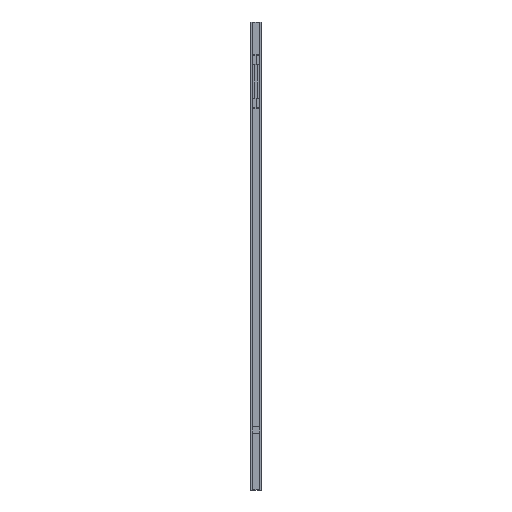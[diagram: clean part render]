
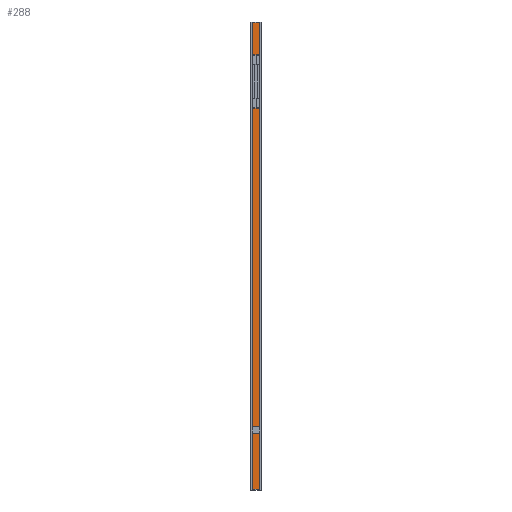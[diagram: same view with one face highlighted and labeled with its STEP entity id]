
A CAD part, top view. The second image highlights one B-rep face of the part: STEP entity #288.
In plain terms, the highlighted planar face has unit normal (0, 0, 1).
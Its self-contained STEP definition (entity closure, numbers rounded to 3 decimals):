
#15=FACE_BOUND('',#893,.T.);
#16=FACE_BOUND('',#894,.T.);
#288=ADVANCED_FACE('',(#590,#15,#16),#4475,.T.);
#590=FACE_OUTER_BOUND('',#892,.T.);
#892=EDGE_LOOP('',(#1731,#1732,#1733,#1734));
#893=EDGE_LOOP('',(#1735,#1736));
#894=EDGE_LOOP('',(#1737,#1738));
#1731=ORIENTED_EDGE('',*,*,#2775,.F.);
#1732=ORIENTED_EDGE('',*,*,#2724,.F.);
#1733=ORIENTED_EDGE('',*,*,#2776,.F.);
#1734=ORIENTED_EDGE('',*,*,#2719,.F.);
#1735=ORIENTED_EDGE('',*,*,#2779,.T.);
#1736=ORIENTED_EDGE('',*,*,#2785,.T.);
#1737=ORIENTED_EDGE('',*,*,#2783,.T.);
#1738=ORIENTED_EDGE('',*,*,#2787,.T.);
#2719=EDGE_CURVE('',#3989,#3990,#3563,.T.);
#2724=EDGE_CURVE('',#3994,#3991,#3568,.T.);
#2775=EDGE_CURVE('',#3991,#3989,#3619,.T.);
#2776=EDGE_CURVE('',#3990,#3994,#3620,.T.);
#2779=EDGE_CURVE('',#4028,#4027,#3623,.T.);
#2783=EDGE_CURVE('',#4030,#4029,#3627,.T.);
#2785=EDGE_CURVE('',#4027,#4028,#3629,.T.);
#2787=EDGE_CURVE('',#4029,#4030,#3631,.T.);
#3563=(
BOUNDED_CURVE()
B_SPLINE_CURVE(1,(#6219,#6220),.UNSPECIFIED.,.F.,.F.)
B_SPLINE_CURVE_WITH_KNOTS((2,2),(0.,1182.),.UNSPECIFIED.)
CURVE()
GEOMETRIC_REPRESENTATION_ITEM()
RATIONAL_B_SPLINE_CURVE((1.,1.))
REPRESENTATION_ITEM('')
);
#3568=(
BOUNDED_CURVE()
B_SPLINE_CURVE(1,(#6232,#6233),.UNSPECIFIED.,.F.,.F.)
B_SPLINE_CURVE_WITH_KNOTS((2,2),(0.,1182.),.UNSPECIFIED.)
CURVE()
GEOMETRIC_REPRESENTATION_ITEM()
RATIONAL_B_SPLINE_CURVE((1.,1.))
REPRESENTATION_ITEM('')
);
#3619=(
BOUNDED_CURVE()
B_SPLINE_CURVE(2,(#6368,#6369,#6370,#6371,#6372,#6373,#6374),
 .UNSPECIFIED.,.F.,.F.)
B_SPLINE_CURVE_WITH_KNOTS((3,2,2,3),(0.,1.472,15.472,
16.944),.UNSPECIFIED.)
CURVE()
GEOMETRIC_REPRESENTATION_ITEM()
RATIONAL_B_SPLINE_CURVE((1.,1.,1.,1.,1.,1.,1.))
REPRESENTATION_ITEM('')
);
#3620=(
BOUNDED_CURVE()
B_SPLINE_CURVE(2,(#6375,#6376,#6377,#6378,#6379,#6380,#6381),
 .UNSPECIFIED.,.F.,.F.)
B_SPLINE_CURVE_WITH_KNOTS((3,2,2,3),(0.,1.472,15.472,
16.944),.UNSPECIFIED.)
CURVE()
GEOMETRIC_REPRESENTATION_ITEM()
RATIONAL_B_SPLINE_CURVE((1.,1.,1.,1.,1.,1.,1.))
REPRESENTATION_ITEM('')
);
#3623=(
BOUNDED_CURVE()
B_SPLINE_CURVE(2,(#6389,#6390,#6391,#6392,#6393),.UNSPECIFIED.,.F.,.F.)
B_SPLINE_CURVE_WITH_KNOTS((3,2,3),(-14.,-7.,
0.),.UNSPECIFIED.)
CURVE()
GEOMETRIC_REPRESENTATION_ITEM()
RATIONAL_B_SPLINE_CURVE((1.,0.707,1.,0.707,1.))
REPRESENTATION_ITEM('')
);
#3627=(
BOUNDED_CURVE()
B_SPLINE_CURVE(2,(#6403,#6404,#6405,#6406,#6407),.UNSPECIFIED.,.F.,.F.)
B_SPLINE_CURVE_WITH_KNOTS((3,2,3),(-14.,-7.,0.),.UNSPECIFIED.)
CURVE()
GEOMETRIC_REPRESENTATION_ITEM()
RATIONAL_B_SPLINE_CURVE((1.,0.707,1.,0.707,1.))
REPRESENTATION_ITEM('')
);
#3629=(
BOUNDED_CURVE()
B_SPLINE_CURVE(2,(#6410,#6411,#6412,#6413,#6414),.UNSPECIFIED.,.F.,.F.)
B_SPLINE_CURVE_WITH_KNOTS((3,2,3),(-14.,-7.,0.),.UNSPECIFIED.)
CURVE()
GEOMETRIC_REPRESENTATION_ITEM()
RATIONAL_B_SPLINE_CURVE((1.,0.707,1.,0.707,1.))
REPRESENTATION_ITEM('')
);
#3631=(
BOUNDED_CURVE()
B_SPLINE_CURVE(2,(#6420,#6421,#6422,#6423,#6424),.UNSPECIFIED.,.F.,.F.)
B_SPLINE_CURVE_WITH_KNOTS((3,2,3),(-14.,-7.,
0.),.UNSPECIFIED.)
CURVE()
GEOMETRIC_REPRESENTATION_ITEM()
RATIONAL_B_SPLINE_CURVE((1.,0.707,1.,0.707,1.))
REPRESENTATION_ITEM('')
);
#3989=VERTEX_POINT('',#6072);
#3990=VERTEX_POINT('',#6073);
#3991=VERTEX_POINT('',#6074);
#3994=VERTEX_POINT('',#6077);
#4027=VERTEX_POINT('',#6110);
#4028=VERTEX_POINT('',#6111);
#4029=VERTEX_POINT('',#6112);
#4030=VERTEX_POINT('',#6113);
#4475=PLANE('',#4661);
#4661=AXIS2_PLACEMENT_3D('',#6039,#4902,$);
#4902=DIRECTION('',(0.,0.,1.));
#6039=CARTESIAN_POINT('',(-10.776,-697.225,9.81));
#6072=CARTESIAN_POINT('',(-8.472,-578.416,9.81));
#6073=CARTESIAN_POINT('',(-8.472,603.584,9.81));
#6074=CARTESIAN_POINT('',(8.472,-578.416,9.81));
#6077=CARTESIAN_POINT('',(8.472,603.584,9.81));
#6110=CARTESIAN_POINT('',(3.5,454.584,9.81));
#6111=CARTESIAN_POINT('',(-3.5,454.584,9.81));
#6112=CARTESIAN_POINT('',(3.5,-429.416,9.81));
#6113=CARTESIAN_POINT('',(-3.5,-429.416,9.81));
#6219=CARTESIAN_POINT('',(-8.472,-578.416,9.81));
#6220=CARTESIAN_POINT('',(-8.472,603.584,9.81));
#6232=CARTESIAN_POINT('',(8.472,603.584,9.81));
#6233=CARTESIAN_POINT('',(8.472,-578.416,9.81));
#6368=CARTESIAN_POINT('',(8.472,-578.416,9.81));
#6369=CARTESIAN_POINT('',(7.736,-578.416,9.81));
#6370=CARTESIAN_POINT('',(7.,-578.416,9.81));
#6371=CARTESIAN_POINT('',(0.,-578.416,9.81));
#6372=CARTESIAN_POINT('',(-7.,-578.416,9.81));
#6373=CARTESIAN_POINT('',(-7.736,-578.416,9.81));
#6374=CARTESIAN_POINT('',(-8.472,-578.416,9.81));
#6375=CARTESIAN_POINT('',(-8.472,603.584,9.81));
#6376=CARTESIAN_POINT('',(-7.736,603.584,9.81));
#6377=CARTESIAN_POINT('',(-7.,603.584,9.81));
#6378=CARTESIAN_POINT('',(0.,603.584,9.81));
#6379=CARTESIAN_POINT('',(7.,603.584,9.81));
#6380=CARTESIAN_POINT('',(7.736,603.584,9.81));
#6381=CARTESIAN_POINT('',(8.472,603.584,9.81));
#6389=CARTESIAN_POINT('',(-3.5,454.584,9.81));
#6390=CARTESIAN_POINT('',(-3.5,458.084,9.81));
#6391=CARTESIAN_POINT('',(0.,458.084,9.81));
#6392=CARTESIAN_POINT('',(3.5,458.084,9.81));
#6393=CARTESIAN_POINT('',(3.5,454.584,9.81));
#6403=CARTESIAN_POINT('',(-3.5,-429.416,9.81));
#6404=CARTESIAN_POINT('',(-3.5,-425.916,9.81));
#6405=CARTESIAN_POINT('',(0.,-425.916,9.81));
#6406=CARTESIAN_POINT('',(3.5,-425.916,9.81));
#6407=CARTESIAN_POINT('',(3.5,-429.416,9.81));
#6410=CARTESIAN_POINT('',(3.5,454.584,9.81));
#6411=CARTESIAN_POINT('',(3.5,451.084,9.81));
#6412=CARTESIAN_POINT('',(0.,451.084,9.81));
#6413=CARTESIAN_POINT('',(-3.5,451.084,9.81));
#6414=CARTESIAN_POINT('',(-3.5,454.584,9.81));
#6420=CARTESIAN_POINT('',(3.5,-429.416,9.81));
#6421=CARTESIAN_POINT('',(3.5,-432.916,9.81));
#6422=CARTESIAN_POINT('',(0.,-432.916,9.81));
#6423=CARTESIAN_POINT('',(-3.5,-432.916,9.81));
#6424=CARTESIAN_POINT('',(-3.5,-429.416,9.81));
